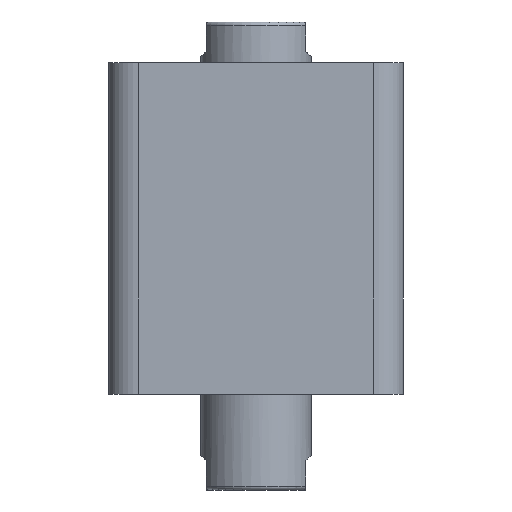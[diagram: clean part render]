
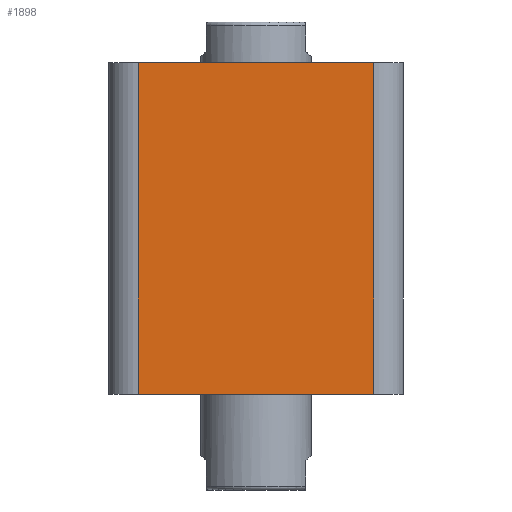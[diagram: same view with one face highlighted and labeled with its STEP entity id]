
A CAD part, front view. The second image highlights one B-rep face of the part: STEP entity #1898.
In plain terms, the highlighted planar face has unit normal (0, -1, 0).
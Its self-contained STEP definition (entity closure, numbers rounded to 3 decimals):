
#229 = VERTEX_POINT ( 'NONE', #331 ) ;
#251 = LINE ( 'NONE', #479, #254 ) ;
#252 = LINE ( 'NONE', #475, #255 ) ;
#253 = LINE ( 'NONE', #471, #262 ) ;
#254 = VECTOR ( 'NONE', #472, 1000. ) ;
#255 = VECTOR ( 'NONE', #476, 1000. ) ;
#257 = VECTOR ( 'NONE', #474, 1000. ) ;
#259 = LINE ( 'NONE', #480, #257 ) ;
#262 = VECTOR ( 'NONE', #3197, 1000. ) ;
#331 = CARTESIAN_POINT ( 'NONE',  ( -32., -40., 90. ) ) ;
#391 = EDGE_CURVE ( 'NONE', #229, #3222, #252, .T. ) ;
#392 = EDGE_CURVE ( 'NONE', #229, #398, #259, .T. ) ;
#393 = EDGE_CURVE ( 'NONE', #398, #446, #251, .T. ) ;
#394 = EDGE_CURVE ( 'NONE', #446, #3222, #253, .T. ) ;
#398 = VERTEX_POINT ( 'NONE', #473 ) ;
#446 = VERTEX_POINT ( 'NONE', #2994 ) ;
#471 = CARTESIAN_POINT ( 'NONE',  ( 32., -40., 90. ) ) ;
#472 = DIRECTION ( 'NONE',  ( 1., 0., 0. ) ) ;
#473 = CARTESIAN_POINT ( 'NONE',  ( -32., -40., 0. ) ) ;
#474 = DIRECTION ( 'NONE',  ( 0., 0., -1. ) ) ;
#475 = CARTESIAN_POINT ( 'NONE',  ( -40., -40., 90. ) ) ;
#476 = DIRECTION ( 'NONE',  ( 1., 0., 0. ) ) ;
#479 = CARTESIAN_POINT ( 'NONE',  ( -40., -40., 0. ) ) ;
#480 = CARTESIAN_POINT ( 'NONE',  ( -32., -40., 90. ) ) ;
#818 = CARTESIAN_POINT ( 'NONE',  ( -40., -40., 90. ) ) ;
#824 = PLANE ( 'NONE',  #2146 ) ;
#825 = DIRECTION ( 'NONE',  ( 0., 1., 0. ) ) ;
#826 = DIRECTION ( 'NONE',  ( 0., 0., 1. ) ) ;
#1438 = CARTESIAN_POINT ( 'NONE',  ( 32., -40., 90. ) ) ;
#1662 = ORIENTED_EDGE ( 'NONE', *, *, #391, .F. ) ;
#1663 = ORIENTED_EDGE ( 'NONE', *, *, #392, .T. ) ;
#1664 = ORIENTED_EDGE ( 'NONE', *, *, #393, .T. ) ;
#1665 = ORIENTED_EDGE ( 'NONE', *, *, #394, .T. ) ;
#1898 = ADVANCED_FACE ( 'NONE', ( #2853 ), #824, .F. ) ;
#2146 = AXIS2_PLACEMENT_3D ( 'NONE', #818, #825, #826 ) ;
#2378 = EDGE_LOOP ( 'NONE', ( #1662, #1663, #1664, #1665 ) ) ;
#2853 = FACE_OUTER_BOUND ( 'NONE', #2378, .T. ) ;
#2994 = CARTESIAN_POINT ( 'NONE',  ( 32., -40., 0. ) ) ;
#3197 = DIRECTION ( 'NONE',  ( 0., 0., 1. ) ) ;
#3222 = VERTEX_POINT ( 'NONE', #1438 ) ;
